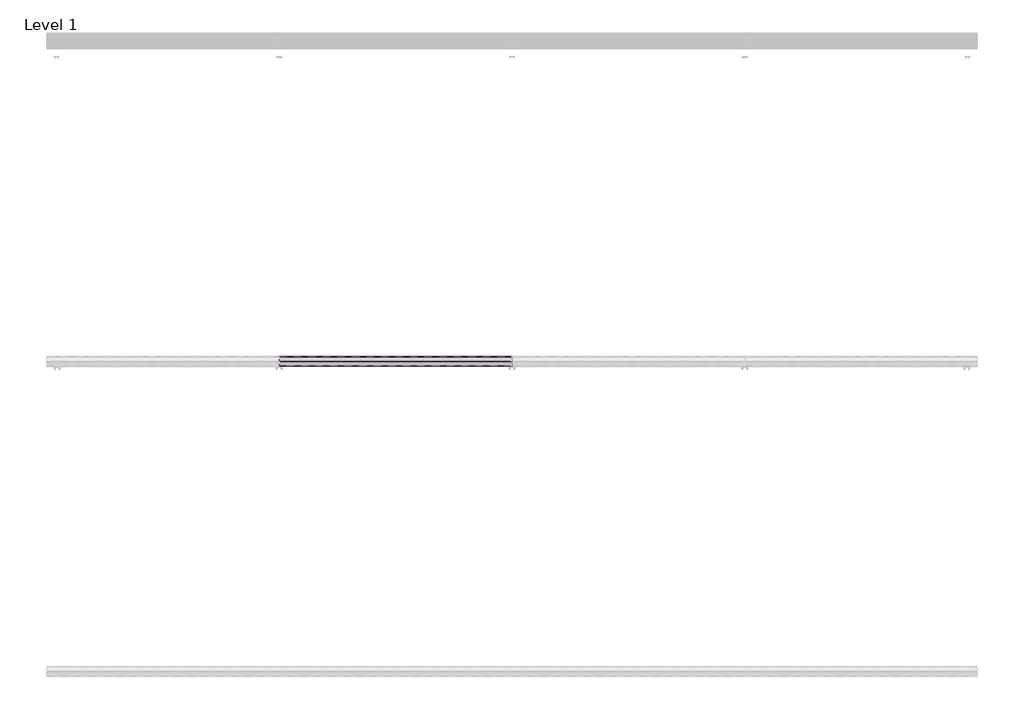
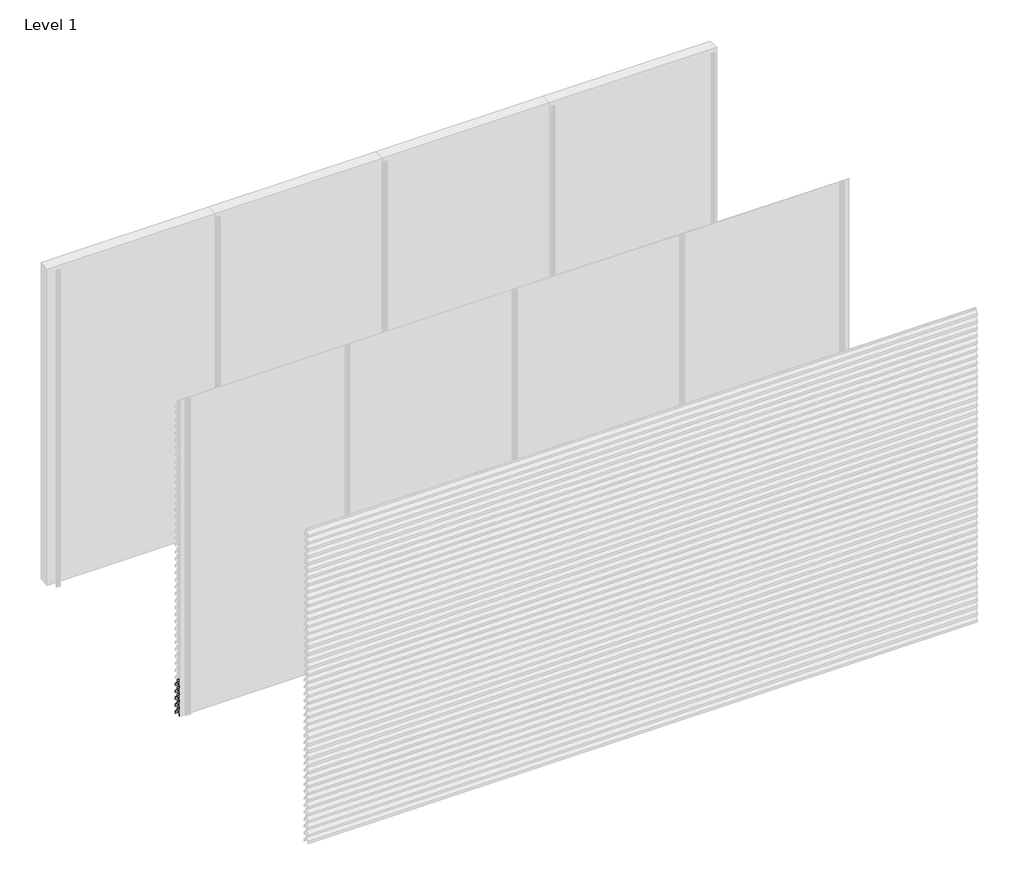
# One storey, part 30 of 35: 69 proxies.
"""IFC4 building model written with IfcOpenShell, lengths in millimetres."""

import ifcopenshell
import ifcopenshell.guid

model = None  # the IFC model being written
_history = None  # IfcOwnerHistory: only IFC2X3 demands one
_inside = {}  # id of a spatial element -> (the spatial element, [elements in it])
_under = {}  # id of a project, library or spatial element -> (it, [spatial elements below it])
_declared = {}  # id of a project -> (the project, [libraries it declares])
_typed = {}  # id of a type object -> (the type object, [elements of that type])
_made_of = {}  # id of a material, layer set ... -> (it, [elements and type objects made of it])


def new_model(schema):
    """Start an empty IFC model of exactly this schema.

    Asked for "IFC4X3", IfcOpenShell would pick the latest addendum, in which some entities
    have other attributes; the version numbers below select the first issue.
    IFC2X3 requires an IfcOwnerHistory on every rooted entity: one is made here for all.
    """
    global model, _history
    if schema == "IFC4X3":
        model = ifcopenshell.file(schema_version=(4, 3, 0, 0))
    else:
        model = ifcopenshell.file(schema=schema)
    _inside.clear()
    _under.clear()
    _declared.clear()
    _typed.clear()
    _made_of.clear()
    _history = None
    if model.schema == "IFC2X3":
        org = make("IfcOrganization", Name="unknown")
        user = make(
            "IfcPersonAndOrganization",
            ThePerson=make("IfcPerson", FamilyName="unknown"),
            TheOrganization=org,
        )
        app = make(
            "IfcApplication",
            ApplicationDeveloper=org,
            Version="unknown",
            ApplicationFullName="unknown",
            ApplicationIdentifier="unknown",
        )
        _history = make(
            "IfcOwnerHistory",
            OwningUser=user,
            OwningApplication=app,
            ChangeAction="ADDED",
            CreationDate=0,
        )
    return model


def make(cls, **values):
    """One entity of the class cls with the attributes given. An attribute that is None is left unset."""
    return model.create_entity(
        cls, **{name: value for name, value in values.items() if value is not None}
    )


def rooted(cls, **values):
    """An entity with a GlobalId (a new one), such as an element, a storey or a relation."""
    return make(cls, GlobalId=ifcopenshell.guid.new(), OwnerHistory=_history, **values)


def si_unit(unit_type, name, prefix=None):
    """IfcSIUnit, for example si_unit("LENGTHUNIT", "METRE", prefix="MILLI")."""
    return make("IfcSIUnit", UnitType=unit_type, Prefix=prefix, Name=name)


def assignment(units):
    """IfcUnitAssignment: the units of a project."""
    return None if units is None else make("IfcUnitAssignment", Units=units)


def point(xyz):
    """IfcCartesianPoint."""
    return None if xyz is None else make("IfcCartesianPoint", Coordinates=xyz)


def direction(xyz):
    """IfcDirection."""
    return None if xyz is None else make("IfcDirection", DirectionRatios=xyz)


def frame(location, z_axis=None, x_axis=None):
    """IfcAxis2Placement3D, a coordinate frame: its origin and axes. An axis left out is left unset."""
    return make(
        "IfcAxis2Placement3D",
        Location=point(location),
        Axis=direction(z_axis),
        RefDirection=direction(x_axis),
    )


def origin():
    """The frame at (0, 0, 0) with its axes left unset."""
    return frame((0.0, 0.0, 0.0))


def place(relative_to, where):
    """IfcLocalPlacement: puts the frame where relative to a parent placement (None: the world)."""
    return make(
        "IfcLocalPlacement", PlacementRelTo=relative_to, RelativePlacement=where
    )


def context(
    kind, dimensions, precision=None, world=None, true_north=None, identifier=None
):
    """IfcGeometricRepresentationContext, for example the 3D "Model" context."""
    return make(
        "IfcGeometricRepresentationContext",
        ContextIdentifier=identifier,
        ContextType=kind,
        CoordinateSpaceDimension=dimensions,
        Precision=precision,
        WorldCoordinateSystem=world,
        TrueNorth=true_north,
    )


def project(units=None, contexts=None):
    """IfcProject with its units and contexts."""
    return rooted(
        "IfcProject",
        Name="project",
        RepresentationContexts=contexts,
        UnitsInContext=assignment(units),
    )


def spatial(cls, under=None, at=None, **own):
    """A site, building, storey or space (cls), placed at a placement, below another one or the project."""
    s = rooted(cls, ObjectPlacement=at, **own)
    if under is not None:
        _under.setdefault(under.id(), (under, []))[1].append(s)
    return s


def polyline(points):
    """IfcPolyline through the points."""
    return make("IfcPolyline", Points=[point(p) for p in points])


def outline(outer, holes=None, kind="AREA"):
    """IfcArbitraryClosedProfileDef: a profile drawn as a closed curve; with holes, ...WithVoids."""
    if holes is None:
        return make("IfcArbitraryClosedProfileDef", ProfileType=kind, OuterCurve=outer)
    return make(
        "IfcArbitraryProfileDefWithVoids",
        ProfileType=kind,
        OuterCurve=outer,
        InnerCurves=holes,
    )


def extrude(swept, where, along, depth):
    """IfcExtrudedAreaSolid: the profile swept, set in the frame where, extruded along a direction by depth."""
    return make(
        "IfcExtrudedAreaSolid",
        SweptArea=swept,
        Position=where,
        ExtrudedDirection=direction(along),
        Depth=depth,
    )


def shape(context_of_items, identifier, shape_type, items):
    """IfcShapeRepresentation: the items that make up one representation, for example the "Body"."""
    return make(
        "IfcShapeRepresentation",
        ContextOfItems=context_of_items,
        RepresentationIdentifier=identifier,
        RepresentationType=shape_type,
        Items=items,
    )


def made_of(thing, what):
    """Note that an element or type object is made of a material, layer set ...; save() writes the relation."""
    if what is not None:
        _made_of.setdefault(what.id(), (what, []))[1].append(thing)
    return thing


def element(
    cls,
    number,
    at=None,
    inside=None,
    cuts=None,
    type_object=None,
    material=None,
    context=None,
    identifier="Body",
    shape_type=None,
    held_by="IfcProductDefinitionShape",
    body=None,
    shapes=None,
    **own,
):
    """One element of the class cls, such as IfcWall. Its Tag is "e" and its number.

    at: its placement. inside: the storey or other place that contains it. cuts: it is an
    opening in that element (IfcRelVoidsElement). A single representation is given by context,
    identifier, shape_type and body (its items); several are given by shapes. held_by: the class
    of the entity that holds the representations. save() writes the other relations.
    """
    e = rooted(cls, Tag="e%d" % number, ObjectPlacement=at, **own)
    if body is not None:
        shapes = [shape(context, identifier, shape_type, body)]
    if shapes is not None:
        e.Representation = make(held_by, Representations=shapes)
    if inside is not None:
        _inside.setdefault(inside.id(), (inside, []))[1].append(e)
    if cuts is not None:
        rooted(
            "IfcRelVoidsElement", RelatingBuildingElement=cuts, RelatedOpeningElement=e
        )
    if type_object is not None:
        _typed.setdefault(type_object.id(), (type_object, []))[1].append(e)
    return made_of(e, material)


def aggregate(whole, parts):
    """IfcRelAggregates: a whole, such as a stair, and the parts it consists of."""
    return rooted("IfcRelAggregates", RelatingObject=whole, RelatedObjects=parts)


def save(model, path):
    """Write the relations noted so far, then the file.

    IfcRelAggregates (storeys below a building ...), IfcRelContainedInSpatialStructure (elements
    in a storey), IfcRelDefinesByType, IfcRelAssociatesMaterial and IfcRelDeclares: one each for
    every whole, place, type object, material and project.
    """
    for whole, parts in _under.values():
        aggregate(whole, parts)
    for where, things in _inside.values():
        rooted(
            "IfcRelContainedInSpatialStructure",
            RelatedElements=things,
            RelatingStructure=where,
        )
    for kind, things in _typed.values():
        rooted("IfcRelDefinesByType", RelatedObjects=things, RelatingType=kind)
    for what, things in _made_of.values():
        rooted("IfcRelAssociatesMaterial", RelatedObjects=things, RelatingMaterial=what)
    for by, libraries in _declared.values():
        rooted("IfcRelDeclares", RelatingContext=by, RelatedDefinitions=libraries)
    model.write(path)


model = new_model("IFC4")

# Units and contexts
model_context = context("Model", 3, world=origin())
ifc_project = project(units=[si_unit("LENGTHUNIT", "METRE", prefix="MILLI")], contexts=[model_context])

# Site, building, storey
site = spatial("IfcSite", under=ifc_project)
building = spatial("IfcBuilding", under=site)
storey = spatial("IfcBuildingStorey", under=building, Name="Level 1", Elevation=0.0)

# Proxies
placement = place(None, origin())
element("IfcBuildingElementProxy", 1, Name="Wall Sweeps", at=placement, inside=storey, context=model_context, shape_type="SweptSolid", body=[
    extrude(outline(polyline([(-5936.0, 276.0), (-5936.0, 256.0), (-5937.25, 256.0), (-5937.25, 275.4342979), (-5968.1138939, 308.531772), (-5996.7, 288.4392868), (-5996.7, 269.6629874), (-5998.0, 268.8506572), (-5998.0, 289.1145472), (-5968.537525, 309.823011), (-5968.537525, 330.0), (-5967.1772624, 330.0), (-5967.1772624, 309.4335207), (-5936.0, 276.0)])), frame((0.0, 0.0, 0.0), z_axis=(1.0, 0.0, 0.0), x_axis=(0.0, 1.0, 0.0)), (0.0, 0.0, 1.0), 1500.0),
])
element("IfcBuildingElementProxy", 2, Name="Wall Sweeps", at=placement, inside=storey, context=model_context, shape_type="SweptSolid", body=[
    extrude(outline(polyline([(-5936.0, 210.0), (-5936.0, 190.0), (-5937.25, 190.0), (-5937.25, 209.4342979), (-5968.1138939, 242.531772), (-5996.7, 222.4392868), (-5996.7, 203.6629874), (-5998.0, 202.8506572), (-5998.0, 223.1145472), (-5968.537525, 243.823011), (-5968.537525, 264.0), (-5967.1772624, 264.0), (-5967.1772624, 243.4335207), (-5936.0, 210.0)])), frame((0.0, 0.0, 0.0), z_axis=(1.0, 0.0, 0.0), x_axis=(0.0, 1.0, 0.0)), (0.0, 0.0, 1.0), 1500.0),
])
element("IfcBuildingElementProxy", 3, Name="Wall Sweeps", at=placement, inside=storey, context=model_context, shape_type="SweptSolid", body=[
    extrude(outline(polyline([(-5936.0, 144.0), (-5936.0, 124.0), (-5937.25, 124.0), (-5937.25, 143.4342979), (-5968.1138939, 176.531772), (-5996.7, 156.4392868), (-5996.7, 137.6629874), (-5998.0, 136.8506572), (-5998.0, 157.1145472), (-5968.537525, 177.823011), (-5968.537525, 198.0), (-5967.1772624, 198.0), (-5967.1772624, 177.4335207), (-5936.0, 144.0)])), frame((0.0, 0.0, 0.0), z_axis=(1.0, 0.0, 0.0), x_axis=(0.0, 1.0, 0.0)), (0.0, 0.0, 1.0), 1500.0),
])
element("IfcBuildingElementProxy", 4, Name="Wall Sweeps", at=placement, inside=storey, context=model_context, shape_type="SweptSolid", body=[
    extrude(outline(polyline([(-5936.0, 78.0), (-5936.0, 58.0), (-5937.25, 58.0), (-5937.25, 77.4342979), (-5968.1138939, 110.531772), (-5996.7, 90.4392868), (-5996.7, 71.6629874), (-5998.0, 70.8506572), (-5998.0, 91.1145472), (-5968.537525, 111.823011), (-5968.537525, 132.0), (-5967.1772624, 132.0), (-5967.1772624, 111.4335207), (-5936.0, 78.0)])), frame((0.0, 0.0, 0.0), z_axis=(1.0, 0.0, 0.0), x_axis=(0.0, 1.0, 0.0)), (0.0, 0.0, 1.0), 1500.0),
])
element("IfcBuildingElementProxy", 5, Name="Wall Sweeps", at=placement, inside=storey, context=model_context, shape_type="SweptSolid", body=[
    extrude(outline(polyline([(-5936.0, 12.0), (-5936.0, -8.0), (-5937.25, -8.0), (-5937.25, 11.4342979), (-5968.1138939, 44.531772), (-5996.7, 24.4392868), (-5996.7, 5.6629874), (-5998.0, 4.8506572), (-5998.0, 25.1145472), (-5968.537525, 45.823011), (-5968.537525, 66.0), (-5967.1772624, 66.0), (-5967.1772624, 45.4335207), (-5936.0, 12.0)])), frame((0.0, 0.0, 0.0), z_axis=(1.0, 0.0, 0.0), x_axis=(0.0, 1.0, 0.0)), (0.0, 0.0, 1.0), 1500.0),
])
element("IfcBuildingElementProxy", 6, Name="Wall Sweeps", at=placement, inside=storey, context=model_context, shape_type="SweptSolid", body=[
    extrude(outline(polyline([(-5936.0, 2916.0), (-5936.0, 2896.0), (-5937.25, 2896.0), (-5937.25, 2915.4342979), (-5968.1138939, 2948.531772), (-5996.7, 2928.4392868), (-5996.7, 2909.6629874), (-5998.0, 2908.8506572), (-5998.0, 2929.1145472), (-5968.537525, 2949.823011), (-5968.537525, 2970.0), (-5967.1772624, 2970.0), (-5967.1772624, 2949.4335207), (-5936.0, 2916.0)])), frame((1500.0, 0.0, 0.0), z_axis=(1.0, 0.0, 0.0), x_axis=(0.0, 1.0, 0.0)), (0.0, 0.0, 1.0), 1500.0),
])
element("IfcBuildingElementProxy", 7, Name="Wall Sweeps", at=placement, inside=storey, context=model_context, shape_type="SweptSolid", body=[
    extrude(outline(polyline([(-5936.0, 2850.0), (-5936.0, 2830.0), (-5937.25, 2830.0), (-5937.25, 2849.4342979), (-5968.1138939, 2882.531772), (-5996.7, 2862.4392868), (-5996.7, 2843.6629874), (-5998.0, 2842.8506572), (-5998.0, 2863.1145472), (-5968.537525, 2883.823011), (-5968.537525, 2904.0), (-5967.1772624, 2904.0), (-5967.1772624, 2883.4335207), (-5936.0, 2850.0)])), frame((1500.0, 0.0, 0.0), z_axis=(1.0, 0.0, 0.0), x_axis=(0.0, 1.0, 0.0)), (0.0, 0.0, 1.0), 1500.0),
])
element("IfcBuildingElementProxy", 8, Name="Wall Sweeps", at=placement, inside=storey, context=model_context, shape_type="SweptSolid", body=[
    extrude(outline(polyline([(-5936.0, 2784.0), (-5936.0, 2764.0), (-5937.25, 2764.0), (-5937.25, 2783.4342979), (-5968.1138939, 2816.531772), (-5996.7, 2796.4392868), (-5996.7, 2777.6629874), (-5998.0, 2776.8506572), (-5998.0, 2797.1145472), (-5968.537525, 2817.823011), (-5968.537525, 2838.0), (-5967.1772624, 2838.0), (-5967.1772624, 2817.4335207), (-5936.0, 2784.0)])), frame((1500.0, 0.0, 0.0), z_axis=(1.0, 0.0, 0.0), x_axis=(0.0, 1.0, 0.0)), (0.0, 0.0, 1.0), 1500.0),
])
element("IfcBuildingElementProxy", 9, Name="Wall Sweeps", at=placement, inside=storey, context=model_context, shape_type="SweptSolid", body=[
    extrude(outline(polyline([(-5936.0, 2718.0), (-5936.0, 2698.0), (-5937.25, 2698.0), (-5937.25, 2717.4342979), (-5968.1138939, 2750.531772), (-5996.7, 2730.4392868), (-5996.7, 2711.6629874), (-5998.0, 2710.8506572), (-5998.0, 2731.1145472), (-5968.537525, 2751.823011), (-5968.537525, 2772.0), (-5967.1772624, 2772.0), (-5967.1772624, 2751.4335207), (-5936.0, 2718.0)])), frame((1500.0, 0.0, 0.0), z_axis=(1.0, 0.0, 0.0), x_axis=(0.0, 1.0, 0.0)), (0.0, 0.0, 1.0), 1500.0),
])
element("IfcBuildingElementProxy", 10, Name="Wall Sweeps", at=placement, inside=storey, context=model_context, shape_type="SweptSolid", body=[
    extrude(outline(polyline([(-5936.0, 2652.0), (-5936.0, 2632.0), (-5937.25, 2632.0), (-5937.25, 2651.4342979), (-5968.1138939, 2684.531772), (-5996.7, 2664.4392868), (-5996.7, 2645.6629874), (-5998.0, 2644.8506572), (-5998.0, 2665.1145472), (-5968.537525, 2685.823011), (-5968.537525, 2706.0), (-5967.1772624, 2706.0), (-5967.1772624, 2685.4335207), (-5936.0, 2652.0)])), frame((1500.0, 0.0, 0.0), z_axis=(1.0, 0.0, 0.0), x_axis=(0.0, 1.0, 0.0)), (0.0, 0.0, 1.0), 1500.0),
])
element("IfcBuildingElementProxy", 11, Name="Wall Sweeps", at=placement, inside=storey, context=model_context, shape_type="SweptSolid", body=[
    extrude(outline(polyline([(-5936.0, 2586.0), (-5936.0, 2566.0), (-5937.25, 2566.0), (-5937.25, 2585.4342979), (-5968.1138939, 2618.531772), (-5996.7, 2598.4392868), (-5996.7, 2579.6629874), (-5998.0, 2578.8506572), (-5998.0, 2599.1145472), (-5968.537525, 2619.823011), (-5968.537525, 2640.0), (-5967.1772624, 2640.0), (-5967.1772624, 2619.4335207), (-5936.0, 2586.0)])), frame((1500.0, 0.0, 0.0), z_axis=(1.0, 0.0, 0.0), x_axis=(0.0, 1.0, 0.0)), (0.0, 0.0, 1.0), 1500.0),
])
element("IfcBuildingElementProxy", 12, Name="Wall Sweeps", at=placement, inside=storey, context=model_context, shape_type="SweptSolid", body=[
    extrude(outline(polyline([(-5936.0, 2520.0), (-5936.0, 2500.0), (-5937.25, 2500.0), (-5937.25, 2519.4342979), (-5968.1138939, 2552.531772), (-5996.7, 2532.4392868), (-5996.7, 2513.6629874), (-5998.0, 2512.8506572), (-5998.0, 2533.1145472), (-5968.537525, 2553.823011), (-5968.537525, 2574.0), (-5967.1772624, 2574.0), (-5967.1772624, 2553.4335207), (-5936.0, 2520.0)])), frame((1500.0, 0.0, 0.0), z_axis=(1.0, 0.0, 0.0), x_axis=(0.0, 1.0, 0.0)), (0.0, 0.0, 1.0), 1500.0),
])
element("IfcBuildingElementProxy", 13, Name="Wall Sweeps", at=placement, inside=storey, context=model_context, shape_type="SweptSolid", body=[
    extrude(outline(polyline([(-5936.0, 2454.0), (-5936.0, 2434.0), (-5937.25, 2434.0), (-5937.25, 2453.4342979), (-5968.1138939, 2486.531772), (-5996.7, 2466.4392868), (-5996.7, 2447.6629874), (-5998.0, 2446.8506572), (-5998.0, 2467.1145472), (-5968.537525, 2487.823011), (-5968.537525, 2508.0), (-5967.1772624, 2508.0), (-5967.1772624, 2487.4335207), (-5936.0, 2454.0)])), frame((1500.0, 0.0, 0.0), z_axis=(1.0, 0.0, 0.0), x_axis=(0.0, 1.0, 0.0)), (0.0, 0.0, 1.0), 1500.0),
])
element("IfcBuildingElementProxy", 14, Name="Wall Sweeps", at=placement, inside=storey, context=model_context, shape_type="SweptSolid", body=[
    extrude(outline(polyline([(-5936.0, 2388.0), (-5936.0, 2368.0), (-5937.25, 2368.0), (-5937.25, 2387.4342979), (-5968.1138939, 2420.531772), (-5996.7, 2400.4392868), (-5996.7, 2381.6629874), (-5998.0, 2380.8506572), (-5998.0, 2401.1145472), (-5968.537525, 2421.823011), (-5968.537525, 2442.0), (-5967.1772624, 2442.0), (-5967.1772624, 2421.4335207), (-5936.0, 2388.0)])), frame((1500.0, 0.0, 0.0), z_axis=(1.0, 0.0, 0.0), x_axis=(0.0, 1.0, 0.0)), (0.0, 0.0, 1.0), 1500.0),
])
element("IfcBuildingElementProxy", 15, Name="Wall Sweeps", at=placement, inside=storey, context=model_context, shape_type="SweptSolid", body=[
    extrude(outline(polyline([(-5936.0, 2322.0), (-5936.0, 2302.0), (-5937.25, 2302.0), (-5937.25, 2321.4342979), (-5968.1138939, 2354.531772), (-5996.7, 2334.4392868), (-5996.7, 2315.6629874), (-5998.0, 2314.8506572), (-5998.0, 2335.1145472), (-5968.537525, 2355.823011), (-5968.537525, 2376.0), (-5967.1772624, 2376.0), (-5967.1772624, 2355.4335207), (-5936.0, 2322.0)])), frame((1500.0, 0.0, 0.0), z_axis=(1.0, 0.0, 0.0), x_axis=(0.0, 1.0, 0.0)), (0.0, 0.0, 1.0), 1500.0),
])
element("IfcBuildingElementProxy", 16, Name="Wall Sweeps", at=placement, inside=storey, context=model_context, shape_type="SweptSolid", body=[
    extrude(outline(polyline([(-5936.0, 2256.0), (-5936.0, 2236.0), (-5937.25, 2236.0), (-5937.25, 2255.4342979), (-5968.1138939, 2288.531772), (-5996.7, 2268.4392868), (-5996.7, 2249.6629874), (-5998.0, 2248.8506572), (-5998.0, 2269.1145472), (-5968.537525, 2289.823011), (-5968.537525, 2310.0), (-5967.1772624, 2310.0), (-5967.1772624, 2289.4335207), (-5936.0, 2256.0)])), frame((1500.0, 0.0, 0.0), z_axis=(1.0, 0.0, 0.0), x_axis=(0.0, 1.0, 0.0)), (0.0, 0.0, 1.0), 1500.0),
])
element("IfcBuildingElementProxy", 17, Name="Wall Sweeps", at=placement, inside=storey, context=model_context, shape_type="SweptSolid", body=[
    extrude(outline(polyline([(-5936.0, 2190.0), (-5936.0, 2170.0), (-5937.25, 2170.0), (-5937.25, 2189.4342979), (-5968.1138939, 2222.531772), (-5996.7, 2202.4392868), (-5996.7, 2183.6629874), (-5998.0, 2182.8506572), (-5998.0, 2203.1145472), (-5968.537525, 2223.823011), (-5968.537525, 2244.0), (-5967.1772624, 2244.0), (-5967.1772624, 2223.4335207), (-5936.0, 2190.0)])), frame((1500.0, 0.0, 0.0), z_axis=(1.0, 0.0, 0.0), x_axis=(0.0, 1.0, 0.0)), (0.0, 0.0, 1.0), 1500.0),
])
element("IfcBuildingElementProxy", 18, Name="Wall Sweeps", at=placement, inside=storey, context=model_context, shape_type="SweptSolid", body=[
    extrude(outline(polyline([(-5936.0, 2124.0), (-5936.0, 2104.0), (-5937.25, 2104.0), (-5937.25, 2123.4342979), (-5968.1138939, 2156.531772), (-5996.7, 2136.4392868), (-5996.7, 2117.6629874), (-5998.0, 2116.8506572), (-5998.0, 2137.1145472), (-5968.537525, 2157.823011), (-5968.537525, 2178.0), (-5967.1772624, 2178.0), (-5967.1772624, 2157.4335207), (-5936.0, 2124.0)])), frame((1500.0, 0.0, 0.0), z_axis=(1.0, 0.0, 0.0), x_axis=(0.0, 1.0, 0.0)), (0.0, 0.0, 1.0), 1500.0),
])
element("IfcBuildingElementProxy", 19, Name="Wall Sweeps", at=placement, inside=storey, context=model_context, shape_type="SweptSolid", body=[
    extrude(outline(polyline([(-5936.0, 2058.0), (-5936.0, 2038.0), (-5937.25, 2038.0), (-5937.25, 2057.4342979), (-5968.1138939, 2090.531772), (-5996.7, 2070.4392868), (-5996.7, 2051.6629874), (-5998.0, 2050.8506572), (-5998.0, 2071.1145472), (-5968.537525, 2091.823011), (-5968.537525, 2112.0), (-5967.1772624, 2112.0), (-5967.1772624, 2091.4335207), (-5936.0, 2058.0)])), frame((1500.0, 0.0, 0.0), z_axis=(1.0, 0.0, 0.0), x_axis=(0.0, 1.0, 0.0)), (0.0, 0.0, 1.0), 1500.0),
])
element("IfcBuildingElementProxy", 20, Name="Wall Sweeps", at=placement, inside=storey, context=model_context, shape_type="SweptSolid", body=[
    extrude(outline(polyline([(-5936.0, 1992.0), (-5936.0, 1972.0), (-5937.25, 1972.0), (-5937.25, 1991.4342979), (-5968.1138939, 2024.531772), (-5996.7, 2004.4392868), (-5996.7, 1985.6629874), (-5998.0, 1984.8506572), (-5998.0, 2005.1145472), (-5968.537525, 2025.823011), (-5968.537525, 2046.0), (-5967.1772624, 2046.0), (-5967.1772624, 2025.4335207), (-5936.0, 1992.0)])), frame((1500.0, 0.0, 0.0), z_axis=(1.0, 0.0, 0.0), x_axis=(0.0, 1.0, 0.0)), (0.0, 0.0, 1.0), 1500.0),
])
element("IfcBuildingElementProxy", 21, Name="Wall Sweeps", at=placement, inside=storey, context=model_context, shape_type="SweptSolid", body=[
    extrude(outline(polyline([(-5936.0, 1926.0), (-5936.0, 1906.0), (-5937.25, 1906.0), (-5937.25, 1925.4342979), (-5968.1138939, 1958.531772), (-5996.7, 1938.4392868), (-5996.7, 1919.6629874), (-5998.0, 1918.8506572), (-5998.0, 1939.1145472), (-5968.537525, 1959.823011), (-5968.537525, 1980.0), (-5967.1772624, 1980.0), (-5967.1772624, 1959.4335207), (-5936.0, 1926.0)])), frame((1500.0, 0.0, 0.0), z_axis=(1.0, 0.0, 0.0), x_axis=(0.0, 1.0, 0.0)), (0.0, 0.0, 1.0), 1500.0),
])
element("IfcBuildingElementProxy", 22, Name="Wall Sweeps", at=placement, inside=storey, context=model_context, shape_type="SweptSolid", body=[
    extrude(outline(polyline([(-5936.0, 1860.0), (-5936.0, 1840.0), (-5937.25, 1840.0), (-5937.25, 1859.4342979), (-5968.1138939, 1892.531772), (-5996.7, 1872.4392868), (-5996.7, 1853.6629874), (-5998.0, 1852.8506572), (-5998.0, 1873.1145472), (-5968.537525, 1893.823011), (-5968.537525, 1914.0), (-5967.1772624, 1914.0), (-5967.1772624, 1893.4335207), (-5936.0, 1860.0)])), frame((1500.0, 0.0, 0.0), z_axis=(1.0, 0.0, 0.0), x_axis=(0.0, 1.0, 0.0)), (0.0, 0.0, 1.0), 1500.0),
])
element("IfcBuildingElementProxy", 23, Name="Wall Sweeps", at=placement, inside=storey, context=model_context, shape_type="SweptSolid", body=[
    extrude(outline(polyline([(-5936.0, 1794.0), (-5936.0, 1774.0), (-5937.25, 1774.0), (-5937.25, 1793.4342979), (-5968.1138939, 1826.531772), (-5996.7, 1806.4392868), (-5996.7, 1787.6629874), (-5998.0, 1786.8506572), (-5998.0, 1807.1145472), (-5968.537525, 1827.823011), (-5968.537525, 1848.0), (-5967.1772624, 1848.0), (-5967.1772624, 1827.4335207), (-5936.0, 1794.0)])), frame((1500.0, 0.0, 0.0), z_axis=(1.0, 0.0, 0.0), x_axis=(0.0, 1.0, 0.0)), (0.0, 0.0, 1.0), 1500.0),
])
element("IfcBuildingElementProxy", 24, Name="Wall Sweeps", at=placement, inside=storey, context=model_context, shape_type="SweptSolid", body=[
    extrude(outline(polyline([(-5936.0, 1728.0), (-5936.0, 1708.0), (-5937.25, 1708.0), (-5937.25, 1727.4342979), (-5968.1138939, 1760.531772), (-5996.7, 1740.4392868), (-5996.7, 1721.6629874), (-5998.0, 1720.8506572), (-5998.0, 1741.1145472), (-5968.537525, 1761.823011), (-5968.537525, 1782.0), (-5967.1772624, 1782.0), (-5967.1772624, 1761.4335207), (-5936.0, 1728.0)])), frame((1500.0, 0.0, 0.0), z_axis=(1.0, 0.0, 0.0), x_axis=(0.0, 1.0, 0.0)), (0.0, 0.0, 1.0), 1500.0),
])
element("IfcBuildingElementProxy", 25, Name="Wall Sweeps", at=placement, inside=storey, context=model_context, shape_type="SweptSolid", body=[
    extrude(outline(polyline([(-5936.0, 1662.0), (-5936.0, 1642.0), (-5937.25, 1642.0), (-5937.25, 1661.4342979), (-5968.1138939, 1694.531772), (-5996.7, 1674.4392868), (-5996.7, 1655.6629874), (-5998.0, 1654.8506572), (-5998.0, 1675.1145472), (-5968.537525, 1695.823011), (-5968.537525, 1716.0), (-5967.1772624, 1716.0), (-5967.1772624, 1695.4335207), (-5936.0, 1662.0)])), frame((1500.0, 0.0, 0.0), z_axis=(1.0, 0.0, 0.0), x_axis=(0.0, 1.0, 0.0)), (0.0, 0.0, 1.0), 1500.0),
])
element("IfcBuildingElementProxy", 26, Name="Wall Sweeps", at=placement, inside=storey, context=model_context, shape_type="SweptSolid", body=[
    extrude(outline(polyline([(-5936.0, 1596.0), (-5936.0, 1576.0), (-5937.25, 1576.0), (-5937.25, 1595.4342979), (-5968.1138939, 1628.531772), (-5996.7, 1608.4392868), (-5996.7, 1589.6629874), (-5998.0, 1588.8506572), (-5998.0, 1609.1145472), (-5968.537525, 1629.823011), (-5968.537525, 1650.0), (-5967.1772624, 1650.0), (-5967.1772624, 1629.4335207), (-5936.0, 1596.0)])), frame((1500.0, 0.0, 0.0), z_axis=(1.0, 0.0, 0.0), x_axis=(0.0, 1.0, 0.0)), (0.0, 0.0, 1.0), 1500.0),
])
element("IfcBuildingElementProxy", 27, Name="Wall Sweeps", at=placement, inside=storey, context=model_context, shape_type="SweptSolid", body=[
    extrude(outline(polyline([(-5936.0, 1530.0), (-5936.0, 1510.0), (-5937.25, 1510.0), (-5937.25, 1529.4342979), (-5968.1138939, 1562.531772), (-5996.7, 1542.4392868), (-5996.7, 1523.6629874), (-5998.0, 1522.8506572), (-5998.0, 1543.1145472), (-5968.537525, 1563.823011), (-5968.537525, 1584.0), (-5967.1772624, 1584.0), (-5967.1772624, 1563.4335207), (-5936.0, 1530.0)])), frame((1500.0, 0.0, 0.0), z_axis=(1.0, 0.0, 0.0), x_axis=(0.0, 1.0, 0.0)), (0.0, 0.0, 1.0), 1500.0),
])
element("IfcBuildingElementProxy", 28, Name="Wall Sweeps", at=placement, inside=storey, context=model_context, shape_type="SweptSolid", body=[
    extrude(outline(polyline([(-5936.0, 1464.0), (-5936.0, 1444.0), (-5937.25, 1444.0), (-5937.25, 1463.4342979), (-5968.1138939, 1496.531772), (-5996.7, 1476.4392868), (-5996.7, 1457.6629874), (-5998.0, 1456.8506572), (-5998.0, 1477.1145472), (-5968.537525, 1497.823011), (-5968.537525, 1518.0), (-5967.1772624, 1518.0), (-5967.1772624, 1497.4335207), (-5936.0, 1464.0)])), frame((1500.0, 0.0, 0.0), z_axis=(1.0, 0.0, 0.0), x_axis=(0.0, 1.0, 0.0)), (0.0, 0.0, 1.0), 1500.0),
])
element("IfcBuildingElementProxy", 29, Name="Wall Sweeps", at=placement, inside=storey, context=model_context, shape_type="SweptSolid", body=[
    extrude(outline(polyline([(-5936.0, 1398.0), (-5936.0, 1378.0), (-5937.25, 1378.0), (-5937.25, 1397.4342979), (-5968.1138939, 1430.531772), (-5996.7, 1410.4392868), (-5996.7, 1391.6629874), (-5998.0, 1390.8506572), (-5998.0, 1411.1145472), (-5968.537525, 1431.823011), (-5968.537525, 1452.0), (-5967.1772624, 1452.0), (-5967.1772624, 1431.4335207), (-5936.0, 1398.0)])), frame((1500.0, 0.0, 0.0), z_axis=(1.0, 0.0, 0.0), x_axis=(0.0, 1.0, 0.0)), (0.0, 0.0, 1.0), 1500.0),
])
element("IfcBuildingElementProxy", 30, Name="Wall Sweeps", at=placement, inside=storey, context=model_context, shape_type="SweptSolid", body=[
    extrude(outline(polyline([(-5936.0, 1332.0), (-5936.0, 1312.0), (-5937.25, 1312.0), (-5937.25, 1331.4342979), (-5968.1138939, 1364.531772), (-5996.7, 1344.4392868), (-5996.7, 1325.6629874), (-5998.0, 1324.8506572), (-5998.0, 1345.1145472), (-5968.537525, 1365.823011), (-5968.537525, 1386.0), (-5967.1772624, 1386.0), (-5967.1772624, 1365.4335207), (-5936.0, 1332.0)])), frame((1500.0, 0.0, 0.0), z_axis=(1.0, 0.0, 0.0), x_axis=(0.0, 1.0, 0.0)), (0.0, 0.0, 1.0), 1500.0),
])
element("IfcBuildingElementProxy", 31, Name="Wall Sweeps", at=placement, inside=storey, context=model_context, shape_type="SweptSolid", body=[
    extrude(outline(polyline([(-5936.0, 1266.0), (-5936.0, 1246.0), (-5937.25, 1246.0), (-5937.25, 1265.4342979), (-5968.1138939, 1298.531772), (-5996.7, 1278.4392868), (-5996.7, 1259.6629874), (-5998.0, 1258.8506572), (-5998.0, 1279.1145472), (-5968.537525, 1299.823011), (-5968.537525, 1320.0), (-5967.1772624, 1320.0), (-5967.1772624, 1299.4335207), (-5936.0, 1266.0)])), frame((1500.0, 0.0, 0.0), z_axis=(1.0, 0.0, 0.0), x_axis=(0.0, 1.0, 0.0)), (0.0, 0.0, 1.0), 1500.0),
])
element("IfcBuildingElementProxy", 32, Name="Wall Sweeps", at=placement, inside=storey, context=model_context, shape_type="SweptSolid", body=[
    extrude(outline(polyline([(-5936.0, 1200.0), (-5936.0, 1180.0), (-5937.25, 1180.0), (-5937.25, 1199.4342979), (-5968.1138939, 1232.531772), (-5996.7, 1212.4392868), (-5996.7, 1193.6629874), (-5998.0, 1192.8506572), (-5998.0, 1213.1145472), (-5968.537525, 1233.823011), (-5968.537525, 1254.0), (-5967.1772624, 1254.0), (-5967.1772624, 1233.4335207), (-5936.0, 1200.0)])), frame((1500.0, 0.0, 0.0), z_axis=(1.0, 0.0, 0.0), x_axis=(0.0, 1.0, 0.0)), (0.0, 0.0, 1.0), 1500.0),
])
element("IfcBuildingElementProxy", 33, Name="Wall Sweeps", at=placement, inside=storey, context=model_context, shape_type="SweptSolid", body=[
    extrude(outline(polyline([(-5936.0, 1134.0), (-5936.0, 1114.0), (-5937.25, 1114.0), (-5937.25, 1133.4342979), (-5968.1138939, 1166.531772), (-5996.7, 1146.4392868), (-5996.7, 1127.6629874), (-5998.0, 1126.8506572), (-5998.0, 1147.1145472), (-5968.537525, 1167.823011), (-5968.537525, 1188.0), (-5967.1772624, 1188.0), (-5967.1772624, 1167.4335207), (-5936.0, 1134.0)])), frame((1500.0, 0.0, 0.0), z_axis=(1.0, 0.0, 0.0), x_axis=(0.0, 1.0, 0.0)), (0.0, 0.0, 1.0), 1500.0),
])
element("IfcBuildingElementProxy", 34, Name="Wall Sweeps", at=placement, inside=storey, context=model_context, shape_type="SweptSolid", body=[
    extrude(outline(polyline([(-5936.0, 1068.0), (-5936.0, 1048.0), (-5937.25, 1048.0), (-5937.25, 1067.4342979), (-5968.1138939, 1100.531772), (-5996.7, 1080.4392868), (-5996.7, 1061.6629874), (-5998.0, 1060.8506572), (-5998.0, 1081.1145472), (-5968.537525, 1101.823011), (-5968.537525, 1122.0), (-5967.1772624, 1122.0), (-5967.1772624, 1101.4335207), (-5936.0, 1068.0)])), frame((1500.0, 0.0, 0.0), z_axis=(1.0, 0.0, 0.0), x_axis=(0.0, 1.0, 0.0)), (0.0, 0.0, 1.0), 1500.0),
])
element("IfcBuildingElementProxy", 35, Name="Wall Sweeps", at=placement, inside=storey, context=model_context, shape_type="SweptSolid", body=[
    extrude(outline(polyline([(-5936.0, 1002.0), (-5936.0, 982.0), (-5937.25, 982.0), (-5937.25, 1001.4342979), (-5968.1138939, 1034.531772), (-5996.7, 1014.4392868), (-5996.7, 995.6629874), (-5998.0, 994.8506572), (-5998.0, 1015.1145472), (-5968.537525, 1035.823011), (-5968.537525, 1056.0), (-5967.1772624, 1056.0), (-5967.1772624, 1035.4335207), (-5936.0, 1002.0)])), frame((1500.0, 0.0, 0.0), z_axis=(1.0, 0.0, 0.0), x_axis=(0.0, 1.0, 0.0)), (0.0, 0.0, 1.0), 1500.0),
])
element("IfcBuildingElementProxy", 36, Name="Wall Sweeps", at=placement, inside=storey, context=model_context, shape_type="SweptSolid", body=[
    extrude(outline(polyline([(-5936.0, 936.0), (-5936.0, 916.0), (-5937.25, 916.0), (-5937.25, 935.4342979), (-5968.1138939, 968.531772), (-5996.7, 948.4392868), (-5996.7, 929.6629874), (-5998.0, 928.8506572), (-5998.0, 949.1145472), (-5968.537525, 969.823011), (-5968.537525, 990.0), (-5967.1772624, 990.0), (-5967.1772624, 969.4335207), (-5936.0, 936.0)])), frame((1500.0, 0.0, 0.0), z_axis=(1.0, 0.0, 0.0), x_axis=(0.0, 1.0, 0.0)), (0.0, 0.0, 1.0), 1500.0),
])
element("IfcBuildingElementProxy", 37, Name="Wall Sweeps", at=placement, inside=storey, context=model_context, shape_type="SweptSolid", body=[
    extrude(outline(polyline([(-5936.0, 870.0), (-5936.0, 850.0), (-5937.25, 850.0), (-5937.25, 869.4342979), (-5968.1138939, 902.531772), (-5996.7, 882.4392868), (-5996.7, 863.6629874), (-5998.0, 862.8506572), (-5998.0, 883.1145472), (-5968.537525, 903.823011), (-5968.537525, 924.0), (-5967.1772624, 924.0), (-5967.1772624, 903.4335207), (-5936.0, 870.0)])), frame((1500.0, 0.0, 0.0), z_axis=(1.0, 0.0, 0.0), x_axis=(0.0, 1.0, 0.0)), (0.0, 0.0, 1.0), 1500.0),
])
element("IfcBuildingElementProxy", 38, Name="Wall Sweeps", at=placement, inside=storey, context=model_context, shape_type="SweptSolid", body=[
    extrude(outline(polyline([(-5936.0, 804.0), (-5936.0, 784.0), (-5937.25, 784.0), (-5937.25, 803.4342979), (-5968.1138939, 836.531772), (-5996.7, 816.4392868), (-5996.7, 797.6629874), (-5998.0, 796.8506572), (-5998.0, 817.1145472), (-5968.537525, 837.823011), (-5968.537525, 858.0), (-5967.1772624, 858.0), (-5967.1772624, 837.4335207), (-5936.0, 804.0)])), frame((1500.0, 0.0, 0.0), z_axis=(1.0, 0.0, 0.0), x_axis=(0.0, 1.0, 0.0)), (0.0, 0.0, 1.0), 1500.0),
])
element("IfcBuildingElementProxy", 39, Name="Wall Sweeps", at=placement, inside=storey, context=model_context, shape_type="SweptSolid", body=[
    extrude(outline(polyline([(-5936.0, 738.0), (-5936.0, 718.0), (-5937.25, 718.0), (-5937.25, 737.4342979), (-5968.1138939, 770.531772), (-5996.7, 750.4392868), (-5996.7, 731.6629874), (-5998.0, 730.8506572), (-5998.0, 751.1145472), (-5968.537525, 771.823011), (-5968.537525, 792.0), (-5967.1772624, 792.0), (-5967.1772624, 771.4335207), (-5936.0, 738.0)])), frame((1500.0, 0.0, 0.0), z_axis=(1.0, 0.0, 0.0), x_axis=(0.0, 1.0, 0.0)), (0.0, 0.0, 1.0), 1500.0),
])
element("IfcBuildingElementProxy", 40, Name="Wall Sweeps", at=placement, inside=storey, context=model_context, shape_type="SweptSolid", body=[
    extrude(outline(polyline([(-5936.0, 672.0), (-5936.0, 652.0), (-5937.25, 652.0), (-5937.25, 671.4342979), (-5968.1138939, 704.531772), (-5996.7, 684.4392868), (-5996.7, 665.6629874), (-5998.0, 664.8506572), (-5998.0, 685.1145472), (-5968.537525, 705.823011), (-5968.537525, 726.0), (-5967.1772624, 726.0), (-5967.1772624, 705.4335207), (-5936.0, 672.0)])), frame((1500.0, 0.0, 0.0), z_axis=(1.0, 0.0, 0.0), x_axis=(0.0, 1.0, 0.0)), (0.0, 0.0, 1.0), 1500.0),
])
element("IfcBuildingElementProxy", 41, Name="Wall Sweeps", at=placement, inside=storey, context=model_context, shape_type="SweptSolid", body=[
    extrude(outline(polyline([(-5936.0, 606.0), (-5936.0, 586.0), (-5937.25, 586.0), (-5937.25, 605.4342979), (-5968.1138939, 638.531772), (-5996.7, 618.4392868), (-5996.7, 599.6629874), (-5998.0, 598.8506572), (-5998.0, 619.1145472), (-5968.537525, 639.823011), (-5968.537525, 660.0), (-5967.1772624, 660.0), (-5967.1772624, 639.4335207), (-5936.0, 606.0)])), frame((1500.0, 0.0, 0.0), z_axis=(1.0, 0.0, 0.0), x_axis=(0.0, 1.0, 0.0)), (0.0, 0.0, 1.0), 1500.0),
])
element("IfcBuildingElementProxy", 42, Name="Wall Sweeps", at=placement, inside=storey, context=model_context, shape_type="SweptSolid", body=[
    extrude(outline(polyline([(-5936.0, 540.0), (-5936.0, 520.0), (-5937.25, 520.0), (-5937.25, 539.4342979), (-5968.1138939, 572.531772), (-5996.7, 552.4392868), (-5996.7, 533.6629874), (-5998.0, 532.8506572), (-5998.0, 553.1145472), (-5968.537525, 573.823011), (-5968.537525, 594.0), (-5967.1772624, 594.0), (-5967.1772624, 573.4335207), (-5936.0, 540.0)])), frame((1500.0, 0.0, 0.0), z_axis=(1.0, 0.0, 0.0), x_axis=(0.0, 1.0, 0.0)), (0.0, 0.0, 1.0), 1500.0),
])
element("IfcBuildingElementProxy", 43, Name="Wall Sweeps", at=placement, inside=storey, context=model_context, shape_type="SweptSolid", body=[
    extrude(outline(polyline([(-5936.0, 474.0), (-5936.0, 454.0), (-5937.25, 454.0), (-5937.25, 473.4342979), (-5968.1138939, 506.531772), (-5996.7, 486.4392868), (-5996.7, 467.6629874), (-5998.0, 466.8506572), (-5998.0, 487.1145472), (-5968.537525, 507.823011), (-5968.537525, 528.0), (-5967.1772624, 528.0), (-5967.1772624, 507.4335207), (-5936.0, 474.0)])), frame((1500.0, 0.0, 0.0), z_axis=(1.0, 0.0, 0.0), x_axis=(0.0, 1.0, 0.0)), (0.0, 0.0, 1.0), 1500.0),
])
element("IfcBuildingElementProxy", 44, Name="Wall Sweeps", at=placement, inside=storey, context=model_context, shape_type="SweptSolid", body=[
    extrude(outline(polyline([(-5936.0, 408.0), (-5936.0, 388.0), (-5937.25, 388.0), (-5937.25, 407.4342979), (-5968.1138939, 440.531772), (-5996.7, 420.4392868), (-5996.7, 401.6629874), (-5998.0, 400.8506572), (-5998.0, 421.1145472), (-5968.537525, 441.823011), (-5968.537525, 462.0), (-5967.1772624, 462.0), (-5967.1772624, 441.4335207), (-5936.0, 408.0)])), frame((1500.0, 0.0, 0.0), z_axis=(1.0, 0.0, 0.0), x_axis=(0.0, 1.0, 0.0)), (0.0, 0.0, 1.0), 1500.0),
])
element("IfcBuildingElementProxy", 45, Name="Wall Sweeps", at=placement, inside=storey, context=model_context, shape_type="SweptSolid", body=[
    extrude(outline(polyline([(-5936.0, 342.0), (-5936.0, 322.0), (-5937.25, 322.0), (-5937.25, 341.4342979), (-5968.1138939, 374.531772), (-5996.7, 354.4392868), (-5996.7, 335.6629874), (-5998.0, 334.8506572), (-5998.0, 355.1145472), (-5968.537525, 375.823011), (-5968.537525, 396.0), (-5967.1772624, 396.0), (-5967.1772624, 375.4335207), (-5936.0, 342.0)])), frame((1500.0, 0.0, 0.0), z_axis=(1.0, 0.0, 0.0), x_axis=(0.0, 1.0, 0.0)), (0.0, 0.0, 1.0), 1500.0),
])
element("IfcBuildingElementProxy", 46, Name="Wall Sweeps", at=placement, inside=storey, context=model_context, shape_type="SweptSolid", body=[
    extrude(outline(polyline([(-5936.0, 276.0), (-5936.0, 256.0), (-5937.25, 256.0), (-5937.25, 275.4342979), (-5968.1138939, 308.531772), (-5996.7, 288.4392868), (-5996.7, 269.6629874), (-5998.0, 268.8506572), (-5998.0, 289.1145472), (-5968.537525, 309.823011), (-5968.537525, 330.0), (-5967.1772624, 330.0), (-5967.1772624, 309.4335207), (-5936.0, 276.0)])), frame((1500.0, 0.0, 0.0), z_axis=(1.0, 0.0, 0.0), x_axis=(0.0, 1.0, 0.0)), (0.0, 0.0, 1.0), 1500.0),
])
element("IfcBuildingElementProxy", 47, Name="Wall Sweeps", at=placement, inside=storey, context=model_context, shape_type="SweptSolid", body=[
    extrude(outline(polyline([(-5936.0, 210.0), (-5936.0, 190.0), (-5937.25, 190.0), (-5937.25, 209.4342979), (-5968.1138939, 242.531772), (-5996.7, 222.4392868), (-5996.7, 203.6629874), (-5998.0, 202.8506572), (-5998.0, 223.1145472), (-5968.537525, 243.823011), (-5968.537525, 264.0), (-5967.1772624, 264.0), (-5967.1772624, 243.4335207), (-5936.0, 210.0)])), frame((1500.0, 0.0, 0.0), z_axis=(1.0, 0.0, 0.0), x_axis=(0.0, 1.0, 0.0)), (0.0, 0.0, 1.0), 1500.0),
])
element("IfcBuildingElementProxy", 48, Name="Wall Sweeps", at=placement, inside=storey, context=model_context, shape_type="SweptSolid", body=[
    extrude(outline(polyline([(-5936.0, 144.0), (-5936.0, 124.0), (-5937.25, 124.0), (-5937.25, 143.4342979), (-5968.1138939, 176.531772), (-5996.7, 156.4392868), (-5996.7, 137.6629874), (-5998.0, 136.8506572), (-5998.0, 157.1145472), (-5968.537525, 177.823011), (-5968.537525, 198.0), (-5967.1772624, 198.0), (-5967.1772624, 177.4335207), (-5936.0, 144.0)])), frame((1500.0, 0.0, 0.0), z_axis=(1.0, 0.0, 0.0), x_axis=(0.0, 1.0, 0.0)), (0.0, 0.0, 1.0), 1500.0),
])
element("IfcBuildingElementProxy", 49, Name="Wall Sweeps", at=placement, inside=storey, context=model_context, shape_type="SweptSolid", body=[
    extrude(outline(polyline([(-5936.0, 78.0), (-5936.0, 58.0), (-5937.25, 58.0), (-5937.25, 77.4342979), (-5968.1138939, 110.531772), (-5996.7, 90.4392868), (-5996.7, 71.6629874), (-5998.0, 70.8506572), (-5998.0, 91.1145472), (-5968.537525, 111.823011), (-5968.537525, 132.0), (-5967.1772624, 132.0), (-5967.1772624, 111.4335207), (-5936.0, 78.0)])), frame((1500.0, 0.0, 0.0), z_axis=(1.0, 0.0, 0.0), x_axis=(0.0, 1.0, 0.0)), (0.0, 0.0, 1.0), 1500.0),
])
element("IfcBuildingElementProxy", 50, Name="Wall Sweeps", at=placement, inside=storey, context=model_context, shape_type="SweptSolid", body=[
    extrude(outline(polyline([(-5936.0, 12.0), (-5936.0, -8.0), (-5937.25, -8.0), (-5937.25, 11.4342979), (-5968.1138939, 44.531772), (-5996.7, 24.4392868), (-5996.7, 5.6629874), (-5998.0, 4.8506572), (-5998.0, 25.1145472), (-5968.537525, 45.823011), (-5968.537525, 66.0), (-5967.1772624, 66.0), (-5967.1772624, 45.4335207), (-5936.0, 12.0)])), frame((1500.0, 0.0, 0.0), z_axis=(1.0, 0.0, 0.0), x_axis=(0.0, 1.0, 0.0)), (0.0, 0.0, 1.0), 1500.0),
])
element("IfcBuildingElementProxy", 51, Name="Wall Sweeps", at=placement, inside=storey, context=model_context, shape_type="SweptSolid", body=[
    extrude(outline(polyline([(-5936.0, 2916.0), (-5936.0, 2896.0), (-5937.25, 2896.0), (-5937.25, 2915.4342979), (-5968.1138939, 2948.531772), (-5996.7, 2928.4392868), (-5996.7, 2909.6629874), (-5998.0, 2908.8506572), (-5998.0, 2929.1145472), (-5968.537525, 2949.823011), (-5968.537525, 2970.0), (-5967.1772624, 2970.0), (-5967.1772624, 2949.4335207), (-5936.0, 2916.0)])), frame((3000.0, 0.0, 0.0), z_axis=(1.0, 0.0, 0.0), x_axis=(0.0, 1.0, 0.0)), (0.0, 0.0, 1.0), 1500.0),
])
element("IfcBuildingElementProxy", 52, Name="Wall Sweeps", at=placement, inside=storey, context=model_context, shape_type="SweptSolid", body=[
    extrude(outline(polyline([(-5936.0, 2850.0), (-5936.0, 2830.0), (-5937.25, 2830.0), (-5937.25, 2849.4342979), (-5968.1138939, 2882.531772), (-5996.7, 2862.4392868), (-5996.7, 2843.6629874), (-5998.0, 2842.8506572), (-5998.0, 2863.1145472), (-5968.537525, 2883.823011), (-5968.537525, 2904.0), (-5967.1772624, 2904.0), (-5967.1772624, 2883.4335207), (-5936.0, 2850.0)])), frame((3000.0, 0.0, 0.0), z_axis=(1.0, 0.0, 0.0), x_axis=(0.0, 1.0, 0.0)), (0.0, 0.0, 1.0), 1500.0),
])
element("IfcBuildingElementProxy", 53, Name="Wall Sweeps", at=placement, inside=storey, context=model_context, shape_type="SweptSolid", body=[
    extrude(outline(polyline([(-5936.0, 2784.0), (-5936.0, 2764.0), (-5937.25, 2764.0), (-5937.25, 2783.4342979), (-5968.1138939, 2816.531772), (-5996.7, 2796.4392868), (-5996.7, 2777.6629874), (-5998.0, 2776.8506572), (-5998.0, 2797.1145472), (-5968.537525, 2817.823011), (-5968.537525, 2838.0), (-5967.1772624, 2838.0), (-5967.1772624, 2817.4335207), (-5936.0, 2784.0)])), frame((3000.0, 0.0, 0.0), z_axis=(1.0, 0.0, 0.0), x_axis=(0.0, 1.0, 0.0)), (0.0, 0.0, 1.0), 1500.0),
])
element("IfcBuildingElementProxy", 54, Name="Wall Sweeps", at=placement, inside=storey, context=model_context, shape_type="SweptSolid", body=[
    extrude(outline(polyline([(-5936.0, 2718.0), (-5936.0, 2698.0), (-5937.25, 2698.0), (-5937.25, 2717.4342979), (-5968.1138939, 2750.531772), (-5996.7, 2730.4392868), (-5996.7, 2711.6629874), (-5998.0, 2710.8506572), (-5998.0, 2731.1145472), (-5968.537525, 2751.823011), (-5968.537525, 2772.0), (-5967.1772624, 2772.0), (-5967.1772624, 2751.4335207), (-5936.0, 2718.0)])), frame((3000.0, 0.0, 0.0), z_axis=(1.0, 0.0, 0.0), x_axis=(0.0, 1.0, 0.0)), (0.0, 0.0, 1.0), 1500.0),
])
element("IfcBuildingElementProxy", 55, Name="Wall Sweeps", at=placement, inside=storey, context=model_context, shape_type="SweptSolid", body=[
    extrude(outline(polyline([(-5936.0, 2652.0), (-5936.0, 2632.0), (-5937.25, 2632.0), (-5937.25, 2651.4342979), (-5968.1138939, 2684.531772), (-5996.7, 2664.4392868), (-5996.7, 2645.6629874), (-5998.0, 2644.8506572), (-5998.0, 2665.1145472), (-5968.537525, 2685.823011), (-5968.537525, 2706.0), (-5967.1772624, 2706.0), (-5967.1772624, 2685.4335207), (-5936.0, 2652.0)])), frame((3000.0, 0.0, 0.0), z_axis=(1.0, 0.0, 0.0), x_axis=(0.0, 1.0, 0.0)), (0.0, 0.0, 1.0), 1500.0),
])
element("IfcBuildingElementProxy", 56, Name="Wall Sweeps", at=placement, inside=storey, context=model_context, shape_type="SweptSolid", body=[
    extrude(outline(polyline([(-5936.0, 2586.0), (-5936.0, 2566.0), (-5937.25, 2566.0), (-5937.25, 2585.4342979), (-5968.1138939, 2618.531772), (-5996.7, 2598.4392868), (-5996.7, 2579.6629874), (-5998.0, 2578.8506572), (-5998.0, 2599.1145472), (-5968.537525, 2619.823011), (-5968.537525, 2640.0), (-5967.1772624, 2640.0), (-5967.1772624, 2619.4335207), (-5936.0, 2586.0)])), frame((3000.0, 0.0, 0.0), z_axis=(1.0, 0.0, 0.0), x_axis=(0.0, 1.0, 0.0)), (0.0, 0.0, 1.0), 1500.0),
])
element("IfcBuildingElementProxy", 57, Name="Wall Sweeps", at=placement, inside=storey, context=model_context, shape_type="SweptSolid", body=[
    extrude(outline(polyline([(-5936.0, 2520.0), (-5936.0, 2500.0), (-5937.25, 2500.0), (-5937.25, 2519.4342979), (-5968.1138939, 2552.531772), (-5996.7, 2532.4392868), (-5996.7, 2513.6629874), (-5998.0, 2512.8506572), (-5998.0, 2533.1145472), (-5968.537525, 2553.823011), (-5968.537525, 2574.0), (-5967.1772624, 2574.0), (-5967.1772624, 2553.4335207), (-5936.0, 2520.0)])), frame((3000.0, 0.0, 0.0), z_axis=(1.0, 0.0, 0.0), x_axis=(0.0, 1.0, 0.0)), (0.0, 0.0, 1.0), 1500.0),
])
element("IfcBuildingElementProxy", 58, Name="Wall Sweeps", at=placement, inside=storey, context=model_context, shape_type="SweptSolid", body=[
    extrude(outline(polyline([(-5936.0, 2454.0), (-5936.0, 2434.0), (-5937.25, 2434.0), (-5937.25, 2453.4342979), (-5968.1138939, 2486.531772), (-5996.7, 2466.4392868), (-5996.7, 2447.6629874), (-5998.0, 2446.8506572), (-5998.0, 2467.1145472), (-5968.537525, 2487.823011), (-5968.537525, 2508.0), (-5967.1772624, 2508.0), (-5967.1772624, 2487.4335207), (-5936.0, 2454.0)])), frame((3000.0, 0.0, 0.0), z_axis=(1.0, 0.0, 0.0), x_axis=(0.0, 1.0, 0.0)), (0.0, 0.0, 1.0), 1500.0),
])
element("IfcBuildingElementProxy", 59, Name="Wall Sweeps", at=placement, inside=storey, context=model_context, shape_type="SweptSolid", body=[
    extrude(outline(polyline([(-5936.0, 2388.0), (-5936.0, 2368.0), (-5937.25, 2368.0), (-5937.25, 2387.4342979), (-5968.1138939, 2420.531772), (-5996.7, 2400.4392868), (-5996.7, 2381.6629874), (-5998.0, 2380.8506572), (-5998.0, 2401.1145472), (-5968.537525, 2421.823011), (-5968.537525, 2442.0), (-5967.1772624, 2442.0), (-5967.1772624, 2421.4335207), (-5936.0, 2388.0)])), frame((3000.0, 0.0, 0.0), z_axis=(1.0, 0.0, 0.0), x_axis=(0.0, 1.0, 0.0)), (0.0, 0.0, 1.0), 1500.0),
])
element("IfcBuildingElementProxy", 60, Name="Wall Sweeps", at=placement, inside=storey, context=model_context, shape_type="SweptSolid", body=[
    extrude(outline(polyline([(-5936.0, 2322.0), (-5936.0, 2302.0), (-5937.25, 2302.0), (-5937.25, 2321.4342979), (-5968.1138939, 2354.531772), (-5996.7, 2334.4392868), (-5996.7, 2315.6629874), (-5998.0, 2314.8506572), (-5998.0, 2335.1145472), (-5968.537525, 2355.823011), (-5968.537525, 2376.0), (-5967.1772624, 2376.0), (-5967.1772624, 2355.4335207), (-5936.0, 2322.0)])), frame((3000.0, 0.0, 0.0), z_axis=(1.0, 0.0, 0.0), x_axis=(0.0, 1.0, 0.0)), (0.0, 0.0, 1.0), 1500.0),
])
element("IfcBuildingElementProxy", 61, Name="Wall Sweeps", at=placement, inside=storey, context=model_context, shape_type="SweptSolid", body=[
    extrude(outline(polyline([(-5936.0, 2256.0), (-5936.0, 2236.0), (-5937.25, 2236.0), (-5937.25, 2255.4342979), (-5968.1138939, 2288.531772), (-5996.7, 2268.4392868), (-5996.7, 2249.6629874), (-5998.0, 2248.8506572), (-5998.0, 2269.1145472), (-5968.537525, 2289.823011), (-5968.537525, 2310.0), (-5967.1772624, 2310.0), (-5967.1772624, 2289.4335207), (-5936.0, 2256.0)])), frame((3000.0, 0.0, 0.0), z_axis=(1.0, 0.0, 0.0), x_axis=(0.0, 1.0, 0.0)), (0.0, 0.0, 1.0), 1500.0),
])
element("IfcBuildingElementProxy", 62, Name="Wall Sweeps", at=placement, inside=storey, context=model_context, shape_type="SweptSolid", body=[
    extrude(outline(polyline([(-5936.0, 2190.0), (-5936.0, 2170.0), (-5937.25, 2170.0), (-5937.25, 2189.4342979), (-5968.1138939, 2222.531772), (-5996.7, 2202.4392868), (-5996.7, 2183.6629874), (-5998.0, 2182.8506572), (-5998.0, 2203.1145472), (-5968.537525, 2223.823011), (-5968.537525, 2244.0), (-5967.1772624, 2244.0), (-5967.1772624, 2223.4335207), (-5936.0, 2190.0)])), frame((3000.0, 0.0, 0.0), z_axis=(1.0, 0.0, 0.0), x_axis=(0.0, 1.0, 0.0)), (0.0, 0.0, 1.0), 1500.0),
])
element("IfcBuildingElementProxy", 63, Name="Wall Sweeps", at=placement, inside=storey, context=model_context, shape_type="SweptSolid", body=[
    extrude(outline(polyline([(-5936.0, 2124.0), (-5936.0, 2104.0), (-5937.25, 2104.0), (-5937.25, 2123.4342979), (-5968.1138939, 2156.531772), (-5996.7, 2136.4392868), (-5996.7, 2117.6629874), (-5998.0, 2116.8506572), (-5998.0, 2137.1145472), (-5968.537525, 2157.823011), (-5968.537525, 2178.0), (-5967.1772624, 2178.0), (-5967.1772624, 2157.4335207), (-5936.0, 2124.0)])), frame((3000.0, 0.0, 0.0), z_axis=(1.0, 0.0, 0.0), x_axis=(0.0, 1.0, 0.0)), (0.0, 0.0, 1.0), 1500.0),
])
element("IfcBuildingElementProxy", 64, Name="Wall Sweeps", at=placement, inside=storey, context=model_context, shape_type="SweptSolid", body=[
    extrude(outline(polyline([(-5936.0, 2058.0), (-5936.0, 2038.0), (-5937.25, 2038.0), (-5937.25, 2057.4342979), (-5968.1138939, 2090.531772), (-5996.7, 2070.4392868), (-5996.7, 2051.6629874), (-5998.0, 2050.8506572), (-5998.0, 2071.1145472), (-5968.537525, 2091.823011), (-5968.537525, 2112.0), (-5967.1772624, 2112.0), (-5967.1772624, 2091.4335207), (-5936.0, 2058.0)])), frame((3000.0, 0.0, 0.0), z_axis=(1.0, 0.0, 0.0), x_axis=(0.0, 1.0, 0.0)), (0.0, 0.0, 1.0), 1500.0),
])
element("IfcBuildingElementProxy", 65, Name="Wall Sweeps", at=placement, inside=storey, context=model_context, shape_type="SweptSolid", body=[
    extrude(outline(polyline([(-5936.0, 1992.0), (-5936.0, 1972.0), (-5937.25, 1972.0), (-5937.25, 1991.4342979), (-5968.1138939, 2024.531772), (-5996.7, 2004.4392868), (-5996.7, 1985.6629874), (-5998.0, 1984.8506572), (-5998.0, 2005.1145472), (-5968.537525, 2025.823011), (-5968.537525, 2046.0), (-5967.1772624, 2046.0), (-5967.1772624, 2025.4335207), (-5936.0, 1992.0)])), frame((3000.0, 0.0, 0.0), z_axis=(1.0, 0.0, 0.0), x_axis=(0.0, 1.0, 0.0)), (0.0, 0.0, 1.0), 1500.0),
])
element("IfcBuildingElementProxy", 66, Name="Wall Sweeps", at=placement, inside=storey, context=model_context, shape_type="SweptSolid", body=[
    extrude(outline(polyline([(-5936.0, 1926.0), (-5936.0, 1906.0), (-5937.25, 1906.0), (-5937.25, 1925.4342979), (-5968.1138939, 1958.531772), (-5996.7, 1938.4392868), (-5996.7, 1919.6629874), (-5998.0, 1918.8506572), (-5998.0, 1939.1145472), (-5968.537525, 1959.823011), (-5968.537525, 1980.0), (-5967.1772624, 1980.0), (-5967.1772624, 1959.4335207), (-5936.0, 1926.0)])), frame((3000.0, 0.0, 0.0), z_axis=(1.0, 0.0, 0.0), x_axis=(0.0, 1.0, 0.0)), (0.0, 0.0, 1.0), 1500.0),
])
element("IfcBuildingElementProxy", 67, Name="Wall Sweeps", at=placement, inside=storey, context=model_context, shape_type="SweptSolid", body=[
    extrude(outline(polyline([(-5936.0, 1860.0), (-5936.0, 1840.0), (-5937.25, 1840.0), (-5937.25, 1859.4342979), (-5968.1138939, 1892.531772), (-5996.7, 1872.4392868), (-5996.7, 1853.6629874), (-5998.0, 1852.8506572), (-5998.0, 1873.1145472), (-5968.537525, 1893.823011), (-5968.537525, 1914.0), (-5967.1772624, 1914.0), (-5967.1772624, 1893.4335207), (-5936.0, 1860.0)])), frame((3000.0, 0.0, 0.0), z_axis=(1.0, 0.0, 0.0), x_axis=(0.0, 1.0, 0.0)), (0.0, 0.0, 1.0), 1500.0),
])
element("IfcBuildingElementProxy", 68, Name="Wall Sweeps", at=placement, inside=storey, context=model_context, shape_type="SweptSolid", body=[
    extrude(outline(polyline([(-5936.0, 1794.0), (-5936.0, 1774.0), (-5937.25, 1774.0), (-5937.25, 1793.4342979), (-5968.1138939, 1826.531772), (-5996.7, 1806.4392868), (-5996.7, 1787.6629874), (-5998.0, 1786.8506572), (-5998.0, 1807.1145472), (-5968.537525, 1827.823011), (-5968.537525, 1848.0), (-5967.1772624, 1848.0), (-5967.1772624, 1827.4335207), (-5936.0, 1794.0)])), frame((3000.0, 0.0, 0.0), z_axis=(1.0, 0.0, 0.0), x_axis=(0.0, 1.0, 0.0)), (0.0, 0.0, 1.0), 1500.0),
])
element("IfcBuildingElementProxy", 69, Name="Wall Sweeps", at=placement, inside=storey, context=model_context, shape_type="SweptSolid", body=[
    extrude(outline(polyline([(-5936.0, 1728.0), (-5936.0, 1708.0), (-5937.25, 1708.0), (-5937.25, 1727.4342979), (-5968.1138939, 1760.531772), (-5996.7, 1740.4392868), (-5996.7, 1721.6629874), (-5998.0, 1720.8506572), (-5998.0, 1741.1145472), (-5968.537525, 1761.823011), (-5968.537525, 1782.0), (-5967.1772624, 1782.0), (-5967.1772624, 1761.4335207), (-5936.0, 1728.0)])), frame((3000.0, 0.0, 0.0), z_axis=(1.0, 0.0, 0.0), x_axis=(0.0, 1.0, 0.0)), (0.0, 0.0, 1.0), 1500.0),
])

save(model, "model.ifc")
